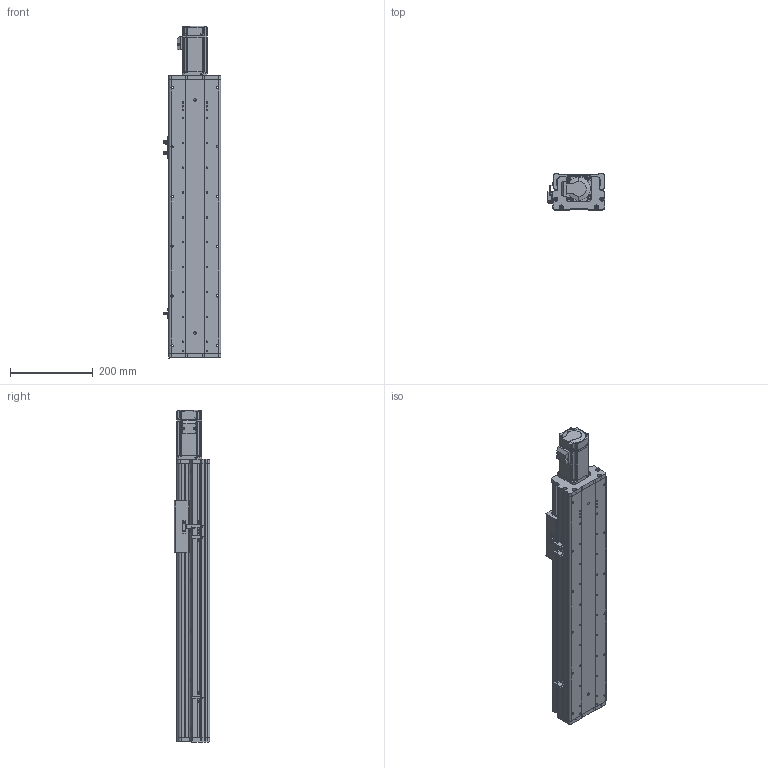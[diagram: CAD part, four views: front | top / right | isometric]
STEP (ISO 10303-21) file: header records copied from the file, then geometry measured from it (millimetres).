
FILE_DESCRIPTION (( 'STEP AP214' ), '1' );
FILE_NAME ('KSD125S-S400-MN-CM.STEP', '2017-08-07T06:10:51', ( '微软用户' ), ( '微软中国' ), 'SwSTEP 2.0', 'SolidWorks 2014', '' );
FILE_SCHEMA (( 'AUTOMOTIVE_DESIGN' ));
Length unit declared in the file: millimetre
Products named in the file (12): 125宽模组 - 直连不带电机座电机安装板; MHMD042G1CA_2_03; 拸萇儂釱滅袉菜; 覜茼え68遵圉猾敕; U倰嫖萇假蚾璃; U倰嫖萇EEㄜSX672; KSD125-賑雄釱1; CS-34X32-10X14; 125-帣傷啣1; KSD125S-S400-MN-CM; KSD125S-400行程丝杆防尘盖-直连不带电机座; KSD125S-400行程丝杆底板-直连不带电机座
Assembly tree (15 placements, depth 2):
  KSD125S-S400-MN-CM
    125-帣傷啣1
    CS-34X32-10X14
    KSD125-賑雄釱1
    U倰嫖萇EEㄜSX672  x3
    U倰嫖萇假蚾璃  x3
    覜茼え68遵圉猾敕
    拸萇儂釱滅袉菜
    MHMD042G1CA_2_03
    125宽模组 - 直连不带电机座电机安装板
    KSD125S-400行程丝杆底板-直连不带电机座
    KSD125S-400行程丝杆防尘盖-直连不带电机座
Bounding box: 138.7 x 86 x 801.5 mm (x, y, z)
Volume: 2386359.2 mm3; surface area: 793525.9 mm2
Topology: 14 solids, 17 shells, 1432 faces, 4143 edges, 2725 vertices
Faces by surface type: cylinder 704, plane 615, cone 91, bspline 22
Entity records: 50292 total; most frequent: CARTESIAN_POINT 10770, DIRECTION 7111, ORIENTED_EDGE 6794, EDGE_CURVE 3475, AXIS2_PLACEMENT_3D 2600, VERTEX_POINT 2317, VECTOR 1911, LINE 1911
